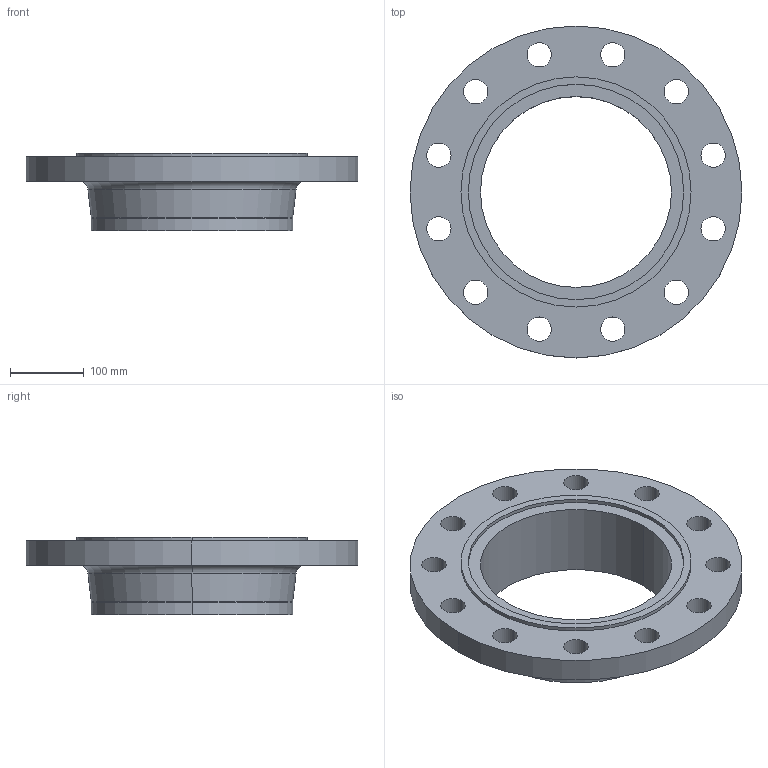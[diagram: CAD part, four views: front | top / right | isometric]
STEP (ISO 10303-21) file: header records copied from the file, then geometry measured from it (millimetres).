
FILE_DESCRIPTION (( 'STEP AP214' ), '1' );
FILE_NAME ('PN40 DN250 Type 11 - Type C Face.STEP', '2019-01-05T16:13:13', ( '' ), ( '' ), 'SwSTEP 2.0', 'SolidWorks 2019', '' );
FILE_SCHEMA (( 'AUTOMOTIVE_DESIGN' ));
Length unit declared in the file: millimetre
Products named in the file (1): PN40 DN250 Type 11 - Type C Face
Bounding box: 450 x 450 x 105 mm (x, y, z)
Volume: 3765742.9 mm3; surface area: 420982.6 mm2
Topology: 1 solids, 1 shells, 45 faces, 114 edges, 74 vertices
Faces by surface type: cylinder 34, plane 5, torus 4, cone 2
Entity records: 1484 total; most frequent: DIRECTION 284, CARTESIAN_POINT 234, ORIENTED_EDGE 228, AXIS2_PLACEMENT_3D 124, EDGE_CURVE 114, CIRCLE 78, VERTEX_POINT 74, EDGE_LOOP 74
